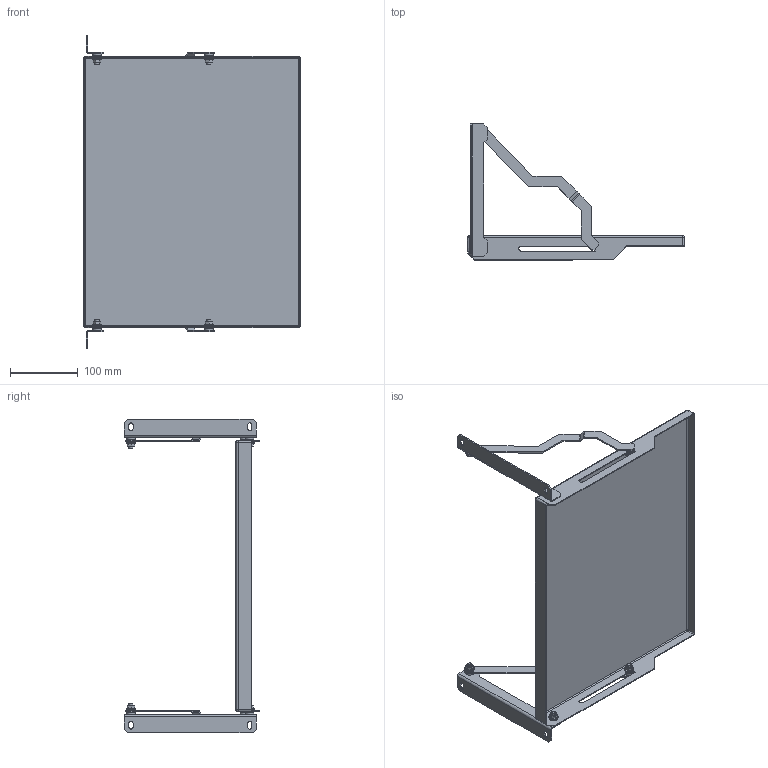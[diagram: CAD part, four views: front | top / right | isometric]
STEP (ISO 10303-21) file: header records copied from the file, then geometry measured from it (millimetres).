
FILE_DESCRIPTION (( 'STEP AP203' ), '1' );
FILE_NAME ('SH 60 D ÑÁ Ïîäñòàâêà v1.STEP', '2017-11-21T12:51:28', ( 'user' ), ( '' ), 'SwSTEP 2.0', 'SolidWorks 2012', '' );
FILE_SCHEMA (( 'CONFIG_CONTROL_DESIGN' ));
Length unit declared in the file: millimetre
Products named in the file (1): SH 60 D ÑÁ Ïîäñòàâêà v1
Bounding box: 320.01 x 200.01 x 462 mm (x, y, z)
Volume: 279670.4 mm3; surface area: 379332.9 mm2
Topology: 17 solids, 17 shells, 420 faces, 943 edges, 577 vertices
Faces by surface type: plane 218, cylinder 92, cone 60, bspline 36, sphere 8, torus 6
Full cylindrical faces by diameter (mm): 5 x6, 6 x12, 6.4 x12, 6.6 x2, 6.706 x1, 6.782 x1, 6.887 x1, 7 x2, 7.005 x1, 7.554 x1, 7.813 x1, 12.5 x12
Entity records: 12065 total; most frequent: CARTESIAN_POINT 3487, DIRECTION 1656, ORIENTED_EDGE 1648, EDGE_CURVE 824, AXIS2_PLACEMENT_3D 629, EDGE_LOOP 570, VERTEX_POINT 544, FACE_OUTER_BOUND 478
